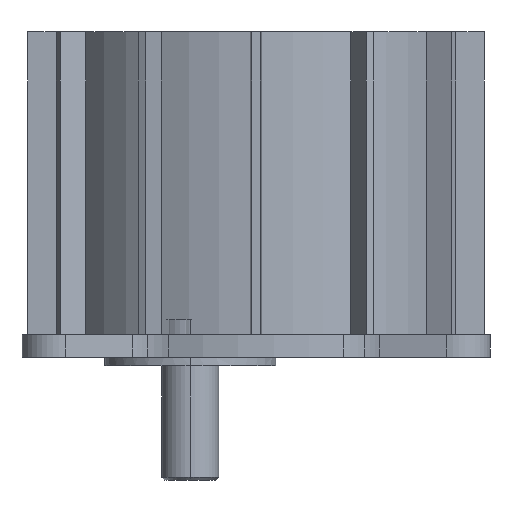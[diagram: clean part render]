
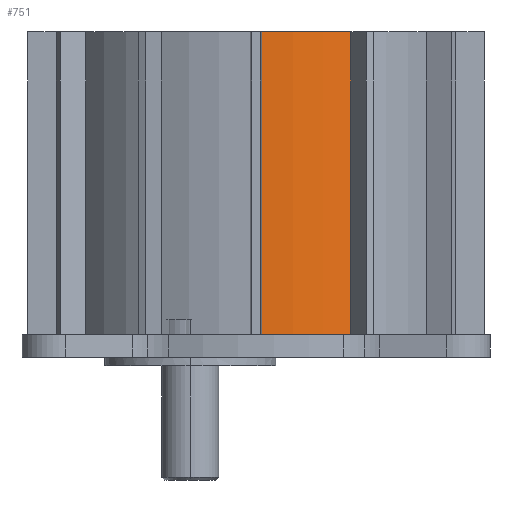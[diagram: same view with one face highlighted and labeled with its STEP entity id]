
A CAD part, left-side view. The second image highlights one B-rep face of the part: STEP entity #751.
In plain terms, the highlighted cylindrical face has radius 35 mm (diameter 70 mm), a partial arc.
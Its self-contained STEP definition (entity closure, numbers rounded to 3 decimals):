
#751 = ADVANCED_FACE ( 'NONE', ( #5949 ), #5948, .T. ) ;
#752 = EDGE_LOOP ( 'NONE', ( #753, #813, #816, #818 ) ) ;
#753 = ORIENTED_EDGE ( 'NONE', *, *, #754, .T. ) ;
#754 = EDGE_CURVE ( 'NONE', #1781, #755, #5908, .T. ) ;
#755 = VERTEX_POINT ( 'NONE', #5904 ) ;
#813 = ORIENTED_EDGE ( 'NONE', *, *, #814, .F. ) ;
#814 = EDGE_CURVE ( 'NONE', #815, #755, #5921, .T. ) ;
#815 = VERTEX_POINT ( 'NONE', #5916 ) ;
#816 = ORIENTED_EDGE ( 'NONE', *, *, #817, .F. ) ;
#817 = EDGE_CURVE ( 'NONE', #1784, #815, #5914, .T. ) ;
#818 = ORIENTED_EDGE ( 'NONE', *, *, #1783, .T. ) ;
#1781 = VERTEX_POINT ( 'NONE', #10558 ) ;
#1783 = EDGE_CURVE ( 'NONE', #1784, #1781, #10557, .T. ) ;
#1784 = VERTEX_POINT ( 'NONE', #10552 ) ;
#5904 = CARTESIAN_POINT ( 'NONE',  ( -30.799, -16.627, 0. ) ) ;
#5905 = DIRECTION ( 'NONE',  ( 0., 0., 1. ) ) ;
#5906 = VECTOR ( 'NONE', #5905, 1000. ) ;
#5907 = CARTESIAN_POINT ( 'NONE',  ( -30.799, -16.627, -53. ) ) ;
#5908 = LINE ( 'NONE', #5907, #5906 ) ;
#5909 = DIRECTION ( 'NONE',  ( 1., 0., 0. ) ) ;
#5911 = DIRECTION ( 'NONE',  ( 0., 0., 1. ) ) ;
#5912 = VECTOR ( 'NONE', #5911, 1000. ) ;
#5913 = CARTESIAN_POINT ( 'NONE',  ( -34.986, -1., -53. ) ) ;
#5914 = LINE ( 'NONE', #5913, #5912 ) ;
#5916 = CARTESIAN_POINT ( 'NONE',  ( -34.986, -1., 0. ) ) ;
#5917 = DIRECTION ( 'NONE',  ( 1., 0., 0. ) ) ;
#5918 = DIRECTION ( 'NONE',  ( 0., 0., 1. ) ) ;
#5919 = CARTESIAN_POINT ( 'NONE',  ( 0., 0., 0. ) ) ;
#5920 = AXIS2_PLACEMENT_3D ( 'NONE', #5919, #5918, #5917 ) ;
#5921 = CIRCLE ( 'NONE', #5920, 35. ) ;
#5945 = DIRECTION ( 'NONE',  ( 0., 0., 1. ) ) ;
#5946 = CARTESIAN_POINT ( 'NONE',  ( 0., 0., -53. ) ) ;
#5947 = AXIS2_PLACEMENT_3D ( 'NONE', #5946, #5945, #5909 ) ;
#5948 = CYLINDRICAL_SURFACE ( 'NONE', #5947, 35. ) ;
#5949 = FACE_OUTER_BOUND ( 'NONE', #752, .T. ) ;
#10552 = CARTESIAN_POINT ( 'NONE',  ( -34.986, -1., -53. ) ) ;
#10553 = DIRECTION ( 'NONE',  ( 1., 0., 0. ) ) ;
#10554 = DIRECTION ( 'NONE',  ( 0., 0., 1. ) ) ;
#10555 = CARTESIAN_POINT ( 'NONE',  ( 0., 0., -53. ) ) ;
#10556 = AXIS2_PLACEMENT_3D ( 'NONE', #10555, #10554, #10553 ) ;
#10557 = CIRCLE ( 'NONE', #10556, 35. ) ;
#10558 = CARTESIAN_POINT ( 'NONE',  ( -30.799, -16.627, -53. ) ) ;
